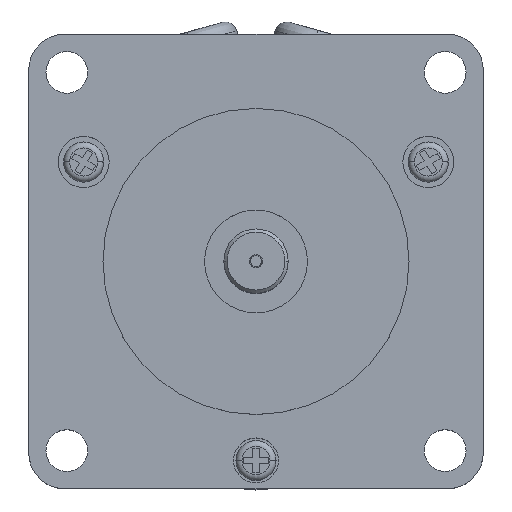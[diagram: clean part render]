
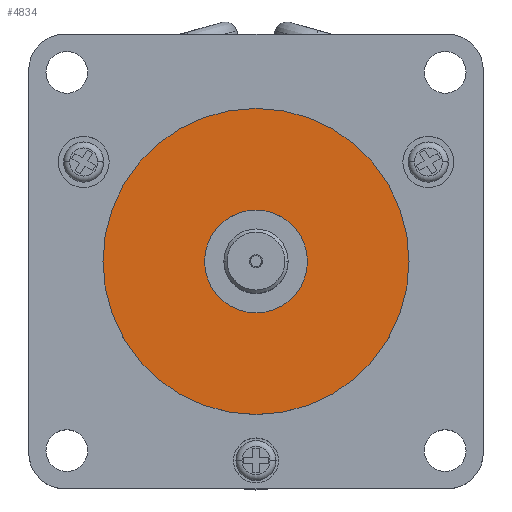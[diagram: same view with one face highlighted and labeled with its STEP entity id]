
A CAD part, top view. The second image highlights one B-rep face of the part: STEP entity #4834.
In plain terms, the highlighted planar face has unit normal (0, 0, 1).
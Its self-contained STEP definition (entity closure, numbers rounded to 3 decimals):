
#90 = VERTEX_POINT ( 'NONE', #2127 ) ;
#310 = ORIENTED_EDGE ( 'NONE', *, *, #2024, .F. ) ;
#793 = DIRECTION ( 'NONE',  ( -1., 0., 0. ) ) ;
#800 = VERTEX_POINT ( 'NONE', #2327 ) ;
#1019 = CARTESIAN_POINT ( 'NONE',  ( 0., 0., 1.5 ) ) ;
#1078 = VERTEX_POINT ( 'NONE', #3696 ) ;
#1223 = AXIS2_PLACEMENT_3D ( 'NONE', #2807, #1248, #2245 ) ;
#1248 = DIRECTION ( 'NONE',  ( 0., 0., 1. ) ) ;
#1318 = PLANE ( 'NONE',  #3590 ) ;
#1353 = CARTESIAN_POINT ( 'NONE',  ( 0., 19.04, 1.5 ) ) ;
#1417 = ORIENTED_EDGE ( 'NONE', *, *, #1723, .F. ) ;
#1537 = CIRCLE ( 'NONE', #1223, 19.04 ) ;
#1723 = EDGE_CURVE ( 'NONE', #5375, #1078, #5918, .T. ) ;
#1809 = DIRECTION ( 'NONE',  ( 0., 0., 1. ) ) ;
#1823 = FACE_BOUND ( 'NONE', #3835, .T. ) ;
#1996 = DIRECTION ( 'NONE',  ( 0., 0., 1. ) ) ;
#2024 = EDGE_CURVE ( 'NONE', #1078, #5375, #6240, .T. ) ;
#2127 = CARTESIAN_POINT ( 'NONE',  ( -19.04, 0., 1.5 ) ) ;
#2245 = DIRECTION ( 'NONE',  ( 1., 0., 0. ) ) ;
#2327 = CARTESIAN_POINT ( 'NONE',  ( 19.04, 0., 1.5 ) ) ;
#2340 = CIRCLE ( 'NONE', #6074, 19.04 ) ;
#2612 = AXIS2_PLACEMENT_3D ( 'NONE', #1019, #3050, #5085 ) ;
#2706 = ORIENTED_EDGE ( 'NONE', *, *, #6223, .T. ) ;
#2779 = EDGE_CURVE ( 'NONE', #90, #800, #1537, .T. ) ;
#2807 = CARTESIAN_POINT ( 'NONE',  ( 0., 0., 1.5 ) ) ;
#3050 = DIRECTION ( 'NONE',  ( 0., 0., 1. ) ) ;
#3276 = ORIENTED_EDGE ( 'NONE', *, *, #2779, .T. ) ;
#3520 = DIRECTION ( 'NONE',  ( 1., 0., 0. ) ) ;
#3590 = AXIS2_PLACEMENT_3D ( 'NONE', #1353, #3847, #793 ) ;
#3696 = CARTESIAN_POINT ( 'NONE',  ( 6.4, 0., 1.5 ) ) ;
#3835 = EDGE_LOOP ( 'NONE', ( #310, #1417 ) ) ;
#3836 = DIRECTION ( 'NONE',  ( 1., 0., 0. ) ) ;
#3847 = DIRECTION ( 'NONE',  ( 0., 0., -1. ) ) ;
#4487 = CARTESIAN_POINT ( 'NONE',  ( 0., 0., 1.5 ) ) ;
#4595 = EDGE_LOOP ( 'NONE', ( #2706, #3276 ) ) ;
#4636 = AXIS2_PLACEMENT_3D ( 'NONE', #6346, #1809, #3836 ) ;
#4834 = ADVANCED_FACE ( 'NONE', ( #1823, #6359 ), #1318, .F. ) ;
#5085 = DIRECTION ( 'NONE',  ( 1., 0., 0. ) ) ;
#5375 = VERTEX_POINT ( 'NONE', #6534 ) ;
#5918 = CIRCLE ( 'NONE', #4636, 6.4 ) ;
#6074 = AXIS2_PLACEMENT_3D ( 'NONE', #4487, #1996, #3520 ) ;
#6223 = EDGE_CURVE ( 'NONE', #800, #90, #2340, .T. ) ;
#6240 = CIRCLE ( 'NONE', #2612, 6.4 ) ;
#6346 = CARTESIAN_POINT ( 'NONE',  ( 0., 0., 1.5 ) ) ;
#6359 = FACE_OUTER_BOUND ( 'NONE', #4595, .T. ) ;
#6534 = CARTESIAN_POINT ( 'NONE',  ( -6.4, 0., 1.5 ) ) ;
